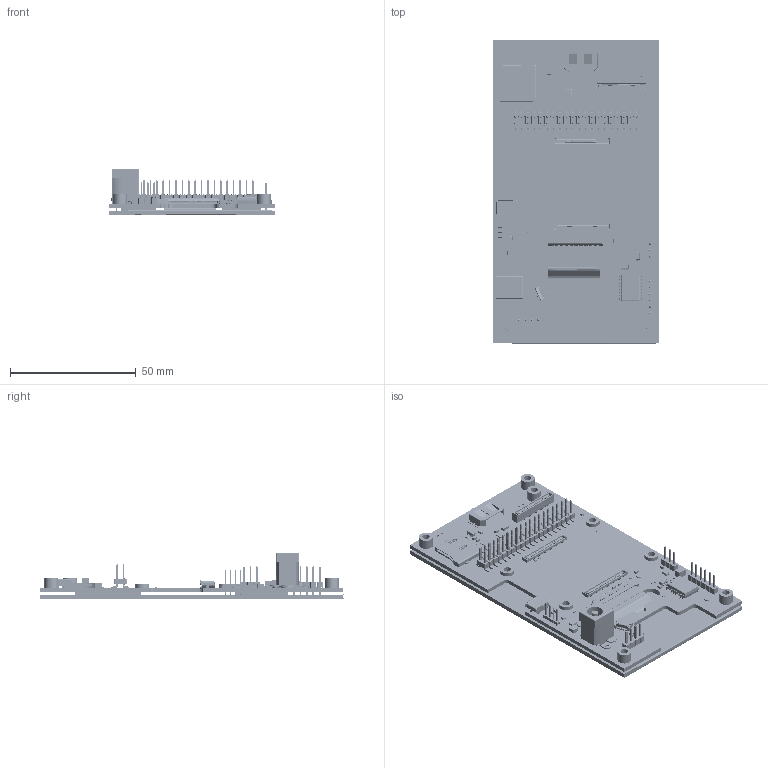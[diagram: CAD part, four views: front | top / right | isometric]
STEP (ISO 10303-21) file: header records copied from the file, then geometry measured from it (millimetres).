
FILE_DESCRIPTION (( 'STEP AP214' ), '1' );
FILE_NAME ('CFA050A0-PI-MBNA.STEP', '2024-04-17T19:36:44', ( '' ), ( '' ), 'SwSTEP 2.0', 'SolidWorks 2021', '' );
FILE_SCHEMA (( 'AUTOMOTIVE_DESIGN' ));
Length unit declared in the file: millimetre
Products named in the file (1): CFA050A0-PI-MBNA
Bounding box: 66.1 x 120.67 x 18.46 mm (x, y, z)
Surface area: 46984.9 mm2 (no closed solid volume)
Topology: 0 solids, 447 shells, 19474 faces, 53703 edges, 35152 vertices
Faces by surface type: plane 13947, cylinder 4915, bspline 408, sphere 143, cone 57, torus 4
Entity records: 846187 total; most frequent: CARTESIAN_POINT 143250, ORIENTED_EDGE 106630, DIRECTION 89990, EDGE_CURVE 53603, LINE 40702, VECTOR 40702, VERTEX_POINT 35116, AXIS2_PLACEMENT_3D 24644
